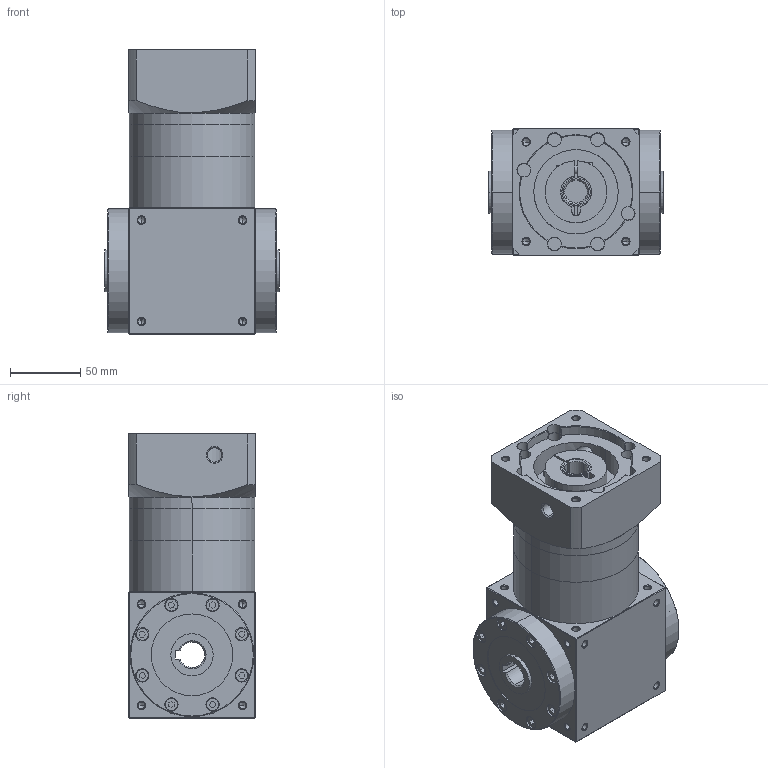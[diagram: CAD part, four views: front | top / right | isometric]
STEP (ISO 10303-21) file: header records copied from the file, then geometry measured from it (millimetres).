
FILE_DESCRIPTION (( 'STEP AP203' ), '1' );
FILE_NAME ('AT090-FH-L2-16-80-100M6.STEP', '2025-08-13T03:34:12', ( 'Windows User' ), ( 'P R C' ), 'SwSTEP 2.0', 'SolidWorks 2016', '' );
FILE_SCHEMA (( 'CONFIG_CONTROL_DESIGN' ));
Length unit declared in the file: millimetre
Products named in the file (7): AT90-单级齿圈; 输入胀套-22; AT90-输入法兰-C-80-M6-100; 输入轴套-19-16; AT090-FH-L2-16-80-100M6; AT90-蛌褒眊极-謂-怀堤; AT90-蛌倰怀堤楊擘
Assembly tree (6 placements, depth 2):
  AT090-FH-L2-16-80-100M6
    AT90-蛌褒眊极-謂-怀堤
    AT90-蛌倰怀堤楊擘
    AT90-单级齿圈
    输入胀套-22
    AT90-输入法兰-C-80-M6-100
    输入轴套-19-16
Bounding box: 124 x 90 x 202 mm (x, y, z)
Volume: 1229821.4 mm3; surface area: 215083.4 mm2
Topology: 6 solids, 18 shells, 1447 faces, 3676 edges, 2318 vertices
Faces by surface type: plane 709, cylinder 323, cone 236, bspline 179
Entity records: 51923 total; most frequent: CARTESIAN_POINT 17972, ORIENTED_EDGE 7168, DIRECTION 6258, EDGE_CURVE 3584, VERTEX_POINT 2318, VECTOR 2290, LINE 2290, AXIS2_PLACEMENT_3D 1984
